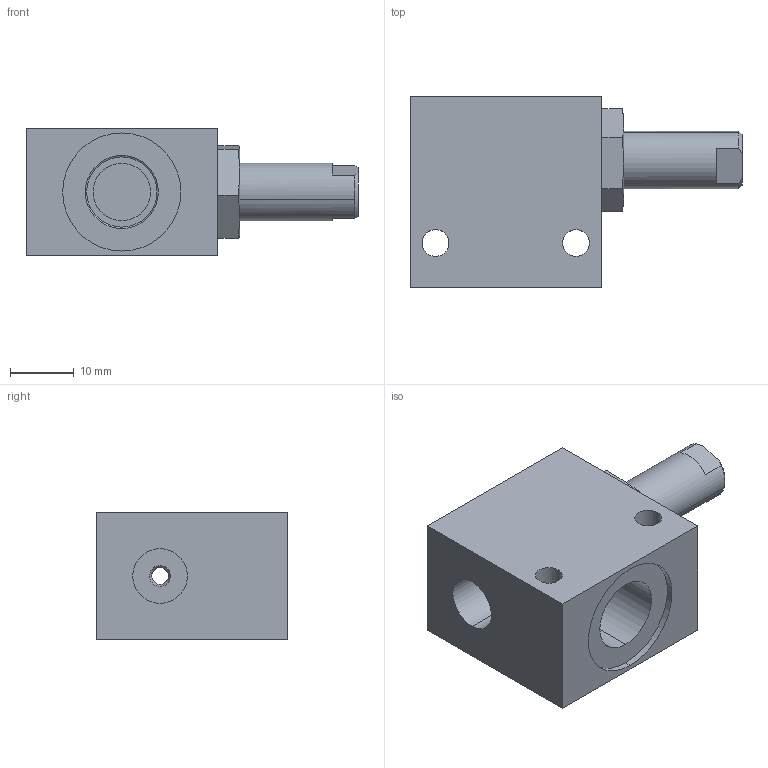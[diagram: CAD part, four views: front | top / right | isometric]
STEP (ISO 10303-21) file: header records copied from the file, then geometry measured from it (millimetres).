
FILE_DESCRIPTION (( 'STEP AP214' ), '1' );
FILE_NAME ('2EJMI8012000.STEP', '2016-09-14T11:58:49', ( '' ), ( '' ), 'SwSTEP 2.0', 'SolidWorks 2010', '' );
FILE_SCHEMA (( 'AUTOMOTIVE_DESIGN' ));
Length unit declared in the file: millimetre
Products named in the file (6): Vis sans tete 6 pans creux a bout plat_Vis sans tête 6 pans creux à bout plat M  2,5 Lg:5; F64.D250.18; 2EJMI8012000; S095102_2EJMV8000COR00; S0861F02_S095110; FILTRES TAMIS_F70.60234.200
Assembly tree (5 placements, depth 2):
  2EJMI8012000
    S095102_2EJMV8000COR00
    Vis sans tete 6 pans creux a bout plat_Vis sans tête 6 pans creux à bout plat M  2,5 Lg:5
    S0861F02_S095110
    FILTRES TAMIS_F70.60234.200
    F64.D250.18
Bounding box: 52 x 30 x 20 mm (x, y, z)
Volume: 15947.5 mm3; surface area: 8095.1 mm2
Topology: 5 solids, 5 shells, 97 faces, 228 edges, 143 vertices
Faces by surface type: cylinder 40, plane 31, cone 26
Entity records: 3365 total; most frequent: CARTESIAN_POINT 597, DIRECTION 510, ORIENTED_EDGE 448, EDGE_CURVE 224, AXIS2_PLACEMENT_3D 206, VERTEX_POINT 143, EDGE_LOOP 117, CIRCLE 101
